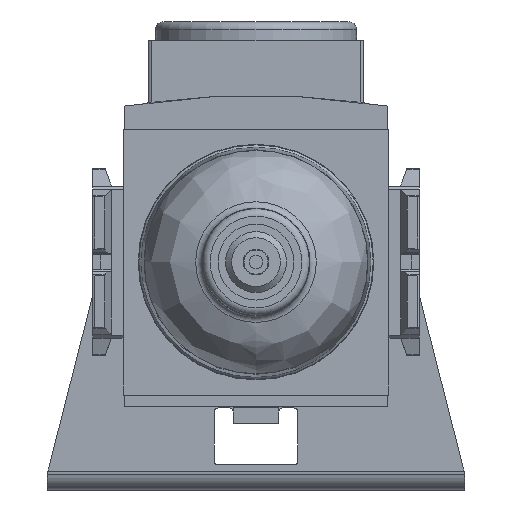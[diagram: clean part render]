
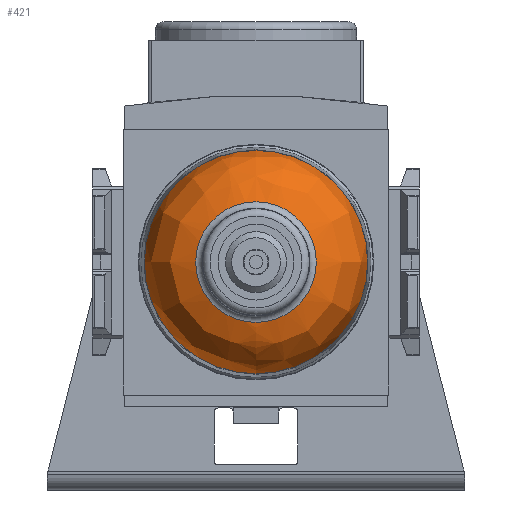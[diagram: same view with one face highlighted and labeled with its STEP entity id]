
A CAD part, front view. The second image highlights one B-rep face of the part: STEP entity #421.
In plain terms, the highlighted free-form (B-spline) face has degree [3, 3] with [4, 7] control points.
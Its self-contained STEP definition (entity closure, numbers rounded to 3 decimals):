
#421 = ADVANCED_FACE( '', ( #1162, #1163 ), #1164, .T. );
#1162 = FACE_OUTER_BOUND( '', #2274, .T. );
#1163 = FACE_OUTER_BOUND( '', #2275, .T. );
#1164 = ( BOUNDED_SURFACE(  )B_SPLINE_SURFACE( 3, 3, ( ( #2278, #2279, #2280, #2281, #2282, #2283, #2284 ), ( #2285, #2286, #2287, #2288, #2289, #2290, #2291 ), ( #2292, #2293, #2294, #2295, #2296, #2297, #2298 ), ( #2299, #2300, #2301, #2302, #2303, #2304, #2305 ) ), .UNSPECIFIED., .F., .T., .F. )B_SPLINE_SURFACE_WITH_KNOTS( ( 4, 4 ), ( 4, 3, 4 ), ( 0., 6.283 ), ( -1.416, -0.712, -0.009 ), .UNSPECIFIED. )GEOMETRIC_REPRESENTATION_ITEM(  )RATIONAL_B_SPLINE_SURFACE( ( ( 1., 0.333, 0.333, 1., 0.333, 0.333, 1. ), ( 0.842, 0.281, 0.281, 0.842, 0.281, 0.281, 0.842 ), ( 0.842, 0.281, 0.281, 0.842, 0.281, 0.281, 0.842 ), ( 1., 0.333, 0.333, 1., 0.333, 0.333, 1. ) ) )REPRESENTATION_ITEM( '' )SURFACE(  ) );
#2274 = EDGE_LOOP( '', ( #3521 ) );
#2275 = EDGE_LOOP( '', ( #3522 ) );
#2278 = CARTESIAN_POINT( '', ( 0., 81.553, -14.702 ) );
#2279 = CARTESIAN_POINT( '', ( 29.404, 81.553, -14.702 ) );
#2280 = CARTESIAN_POINT( '', ( 29.404, 81.553, 14.702 ) );
#2281 = CARTESIAN_POINT( '', ( 0., 81.553, 14.702 ) );
#2282 = CARTESIAN_POINT( '', ( -29.404, 81.553, 14.702 ) );
#2283 = CARTESIAN_POINT( '', ( -29.404, 81.553, -14.702 ) );
#2284 = CARTESIAN_POINT( '', ( 0., 81.553, -14.702 ) );
#2285 = CARTESIAN_POINT( '', ( 0., 85.651, -14.666 ) );
#2286 = CARTESIAN_POINT( '', ( 29.332, 85.651, -14.666 ) );
#2287 = CARTESIAN_POINT( '', ( 29.332, 85.651, 14.666 ) );
#2288 = CARTESIAN_POINT( '', ( 0., 85.651, 14.666 ) );
#2289 = CARTESIAN_POINT( '', ( -29.332, 85.651, 14.666 ) );
#2290 = CARTESIAN_POINT( '', ( -29.332, 85.651, -14.666 ) );
#2291 = CARTESIAN_POINT( '', ( 0., 85.651, -14.666 ) );
#2292 = CARTESIAN_POINT( '', ( 0., 88.754, -11.988 ) );
#2293 = CARTESIAN_POINT( '', ( 23.975, 88.754, -11.988 ) );
#2294 = CARTESIAN_POINT( '', ( 23.975, 88.754, 11.988 ) );
#2295 = CARTESIAN_POINT( '', ( 0., 88.754, 11.988 ) );
#2296 = CARTESIAN_POINT( '', ( -23.975, 88.754, 11.988 ) );
#2297 = CARTESIAN_POINT( '', ( -23.975, 88.754, -11.988 ) );
#2298 = CARTESIAN_POINT( '', ( 0., 88.754, -11.988 ) );
#2299 = CARTESIAN_POINT( '', ( 0., 89.387, -7.938 ) );
#2300 = CARTESIAN_POINT( '', ( 15.876, 89.387, -7.938 ) );
#2301 = CARTESIAN_POINT( '', ( 15.876, 89.387, 7.938 ) );
#2302 = CARTESIAN_POINT( '', ( 0., 89.387, 7.938 ) );
#2303 = CARTESIAN_POINT( '', ( -15.876, 89.387, 7.938 ) );
#2304 = CARTESIAN_POINT( '', ( -15.876, 89.387, -7.938 ) );
#2305 = CARTESIAN_POINT( '', ( 0., 89.387, -7.938 ) );
#3521 = ORIENTED_EDGE( '', *, *, #6662, .T. );
#3522 = ORIENTED_EDGE( '', *, *, #6663, .F. );
#6662 = EDGE_CURVE( '', #7978, #7978, #7979, .T. );
#6663 = EDGE_CURVE( '', #7980, #7980, #7981, .T. );
#7978 = VERTEX_POINT( '', #9887 );
#7979 = CIRCLE( '', #9888, 7.938 );
#7980 = VERTEX_POINT( '', #9889 );
#7981 = CIRCLE( '', #9890, 14.702 );
#9887 = CARTESIAN_POINT( '', ( 0., 89.387, -7.938 ) );
#9888 = AXIS2_PLACEMENT_3D( '', #12367, #12368, #12369 );
#9889 = CARTESIAN_POINT( '', ( 0., 81.553, -14.702 ) );
#9890 = AXIS2_PLACEMENT_3D( '', #12370, #12371, #12372 );
#12367 = CARTESIAN_POINT( '', ( 0., 89.387, 0. ) );
#12368 = DIRECTION( '', ( 0., -1., 0. ) );
#12369 = DIRECTION( '', ( 0., 0., -1. ) );
#12370 = CARTESIAN_POINT( '', ( 0., 81.553, 0. ) );
#12371 = DIRECTION( '', ( 0., -1., 0. ) );
#12372 = DIRECTION( '', ( 0., 0., -1. ) );
